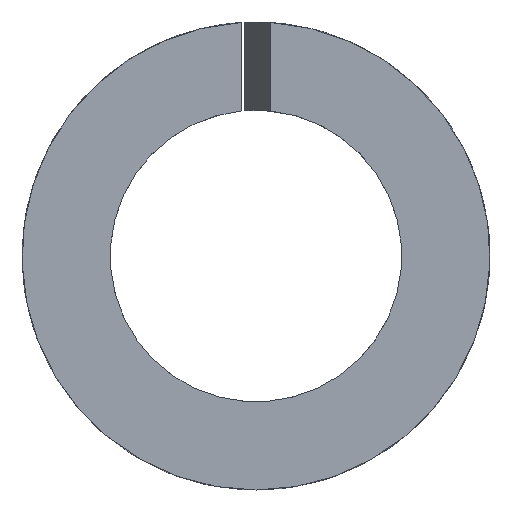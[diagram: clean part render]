
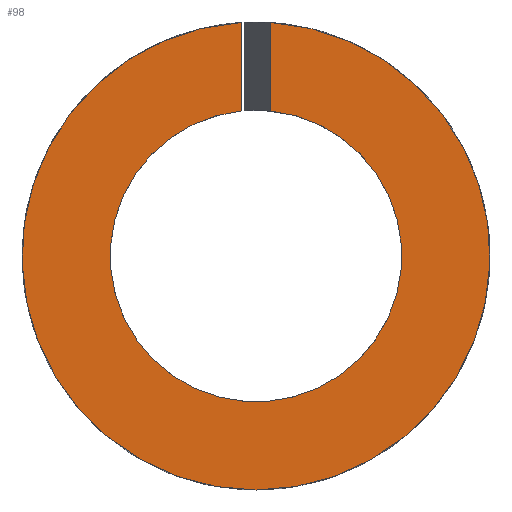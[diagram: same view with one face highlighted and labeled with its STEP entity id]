
A CAD part, left-side view. The second image highlights one B-rep face of the part: STEP entity #98.
In plain terms, the highlighted planar face has unit normal (-1, 0, 0).
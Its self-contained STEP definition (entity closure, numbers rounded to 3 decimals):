
#19=CIRCLE('',#132,8.1);
#20=CIRCLE('',#134,13.);
#26=FACE_OUTER_BOUND('',#32,.T.);
#32=EDGE_LOOP('',(#85,#86,#87,#88));
#34=LINE('',#179,#38);
#35=LINE('',#185,#39);
#38=VECTOR('',#145,10.);
#39=VECTOR('',#150,10.);
#46=VERTEX_POINT('',#173);
#48=VERTEX_POINT('',#177);
#49=VERTEX_POINT('',#181);
#51=VERTEX_POINT('',#184);
#56=EDGE_CURVE('',#46,#48,#34,.T.);
#58=EDGE_CURVE('',#51,#49,#35,.T.);
#63=EDGE_CURVE('',#49,#46,#19,.T.);
#64=EDGE_CURVE('',#48,#51,#20,.T.);
#85=ORIENTED_EDGE('',*,*,#58,.T.);
#86=ORIENTED_EDGE('',*,*,#63,.T.);
#87=ORIENTED_EDGE('',*,*,#56,.T.);
#88=ORIENTED_EDGE('',*,*,#64,.T.);
#92=PLANE('',#135);
#98=ADVANCED_FACE('',(#26),#92,.T.);
#132=AXIS2_PLACEMENT_3D('',#193,#162,#163);
#134=AXIS2_PLACEMENT_3D('',#195,#166,#167);
#135=AXIS2_PLACEMENT_3D('',#196,#168,#169);
#145=DIRECTION('',(0.,0.,1.));
#150=DIRECTION('',(0.,0.,-1.));
#162=DIRECTION('center_axis',(1.,0.,0.));
#163=DIRECTION('ref_axis',(0.,-1.,0.));
#166=DIRECTION('center_axis',(-1.,0.,0.));
#167=DIRECTION('ref_axis',(0.,-1.,0.));
#168=DIRECTION('center_axis',(-1.,0.,0.));
#169=DIRECTION('ref_axis',(0.,0.,1.));
#173=CARTESIAN_POINT('',(0.,0.8,8.06));
#177=CARTESIAN_POINT('',(0.,0.8,12.975));
#179=CARTESIAN_POINT('',(0.,0.8,0.));
#181=CARTESIAN_POINT('',(0.,-0.8,8.06));
#184=CARTESIAN_POINT('',(0.,-0.8,12.975));
#185=CARTESIAN_POINT('',(0.,-0.8,0.));
#193=CARTESIAN_POINT('Origin',(0.,0.,0.));
#195=CARTESIAN_POINT('Origin',(0.,0.,0.));
#196=CARTESIAN_POINT('Origin',(0.,0.,0.));
